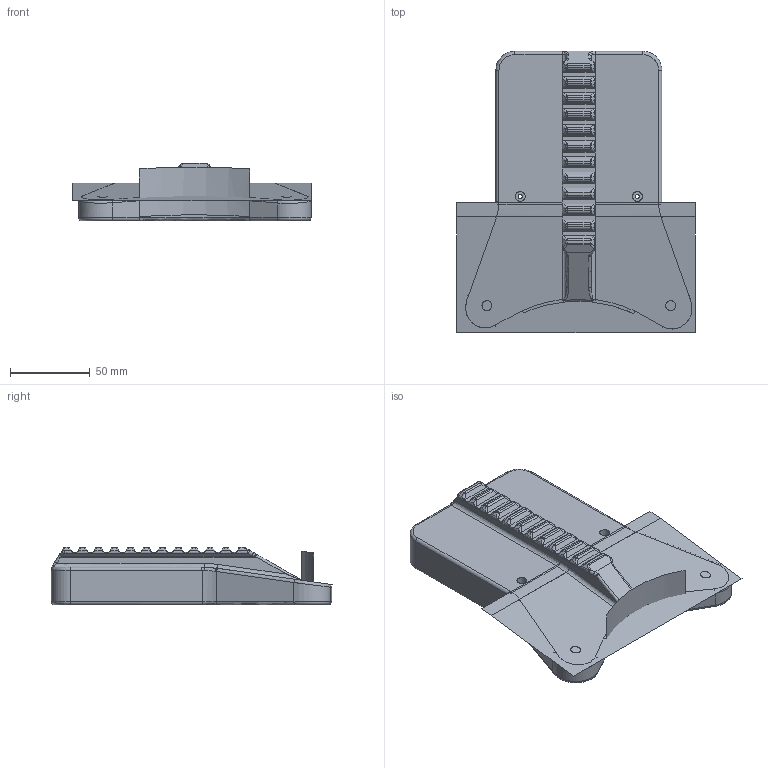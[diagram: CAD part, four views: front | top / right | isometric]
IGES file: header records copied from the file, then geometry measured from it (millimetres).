
Global section: file name: E:\M1337\M1337 Remodel\Metric\Clutch\IGES Files\Grip Frame Upper Pic Rail Metric.igs; native system: NX V2007; preprocessor: SIEMENS PLM Software NX 2027; date: 20260813.191651; units: millimetre
Bounding box: 150 x 176.85 x 36.4 mm (x, y, z)
Surface area: 68763.5 mm2 (no closed solid volume)
Topology: 0 solids, 0 shells, 346 faces, 1901 edges, 1971 vertices
Faces by surface type: bspline 346
